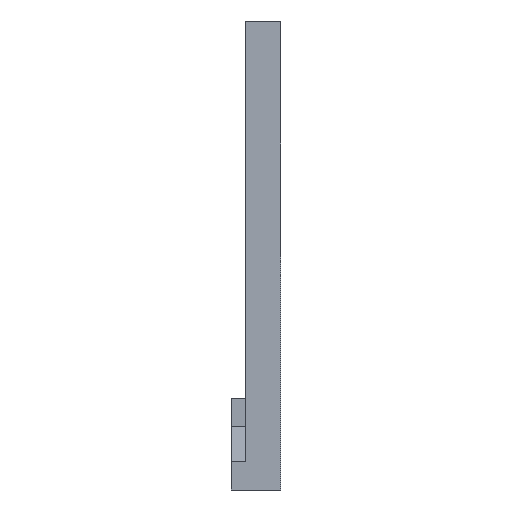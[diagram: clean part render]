
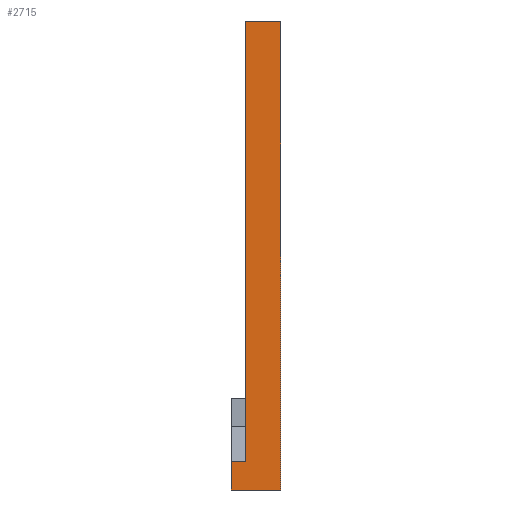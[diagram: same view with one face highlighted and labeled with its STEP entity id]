
A CAD part, left-side view. The second image highlights one B-rep face of the part: STEP entity #2715.
In plain terms, the highlighted planar face has unit normal (-1, 0, 0).
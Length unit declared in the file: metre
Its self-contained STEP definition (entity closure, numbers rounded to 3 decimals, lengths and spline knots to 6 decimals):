
#430=ORIENTED_EDGE('',*,*,#943,.T.);
#431=ORIENTED_EDGE('',*,*,#1095,.F.);
#432=ORIENTED_EDGE('',*,*,#830,.T.);
#433=ORIENTED_EDGE('',*,*,#1096,.F.);
#434=ORIENTED_EDGE('',*,*,#1097,.F.);
#435=ORIENTED_EDGE('',*,*,#1093,.T.);
#830=EDGE_CURVE('',#1220,#1219,#1473,.T.);
#943=EDGE_CURVE('',#1331,#1330,#1576,.T.);
#1093=EDGE_CURVE('',#1417,#1331,#1720,.T.);
#1095=EDGE_CURVE('',#1220,#1330,#1722,.T.);
#1096=EDGE_CURVE('',#1418,#1219,#1723,.T.);
#1097=EDGE_CURVE('',#1417,#1418,#1724,.T.);
#1219=VERTEX_POINT('',#3643);
#1220=VERTEX_POINT('',#3645);
#1330=VERTEX_POINT('',#3868);
#1331=VERTEX_POINT('',#3870);
#1417=VERTEX_POINT('',#4194);
#1418=VERTEX_POINT('',#4199);
#1473=LINE('',#3644,#1842);
#1576=LINE('',#3869,#1945);
#1720=LINE('',#4193,#2089);
#1722=LINE('',#4197,#2091);
#1723=LINE('',#4198,#2092);
#1724=LINE('',#4200,#2093);
#1842=VECTOR('',#2963,1.);
#1945=VECTOR('',#3088,1.);
#2089=VECTOR('',#3364,1.);
#2091=VECTOR('',#3368,1.);
#2092=VECTOR('',#3369,1.);
#2093=VECTOR('',#3370,1.);
#2281=EDGE_LOOP('',(#430,#431,#432,#433,#434,#435));
#2444=FACE_BOUND('',#2281,.T.);
#2586=PLANE('',#2875);
#2715=ADVANCED_FACE('',(#2444),#2586,.F.);
#2875=AXIS2_PLACEMENT_3D('',#4196,#3366,#3367);
#2963=DIRECTION('',(0.,0.,-1.));
#3088=DIRECTION('',(0.,0.,-1.));
#3364=DIRECTION('',(0.,1.,0.));
#3366=DIRECTION('',(1.,0.,0.));
#3367=DIRECTION('',(0.,0.,-1.));
#3368=DIRECTION('',(0.,-1.,0.));
#3369=DIRECTION('',(0.,1.,0.));
#3370=DIRECTION('',(0.,0.,-1.));
#3643=CARTESIAN_POINT('',(-0.088587,0.002,-0.010327));
#3644=CARTESIAN_POINT('',(-0.088587,0.002,0.020862));
#3645=CARTESIAN_POINT('',(-0.088587,0.002,-0.006327));
#3868=CARTESIAN_POINT('',(-0.088587,0.,-0.006327));
#3869=CARTESIAN_POINT('',(-0.088587,0.,0.020862));
#3870=CARTESIAN_POINT('',(-0.088587,0.,0.056051));
#4193=CARTESIAN_POINT('',(-0.088587,-0.005,0.056051));
#4194=CARTESIAN_POINT('',(-0.088587,-0.005,0.056051));
#4196=CARTESIAN_POINT('',(-0.088587,-0.005,0.020862));
#4197=CARTESIAN_POINT('',(-0.088587,0.002,-0.006327));
#4198=CARTESIAN_POINT('',(-0.088587,-0.005,-0.010327));
#4199=CARTESIAN_POINT('',(-0.088587,-0.005,-0.010327));
#4200=CARTESIAN_POINT('',(-0.088587,-0.005,0.020862));
